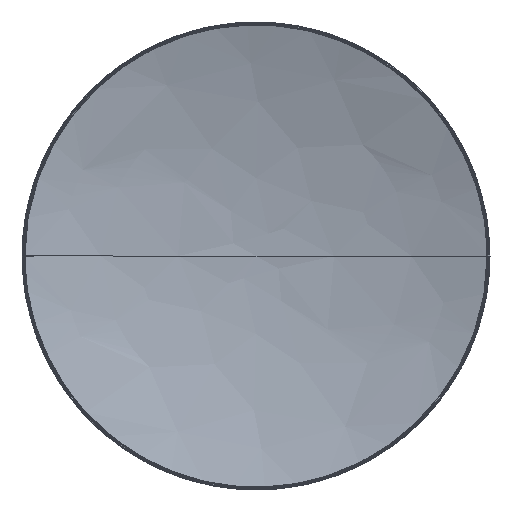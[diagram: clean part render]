
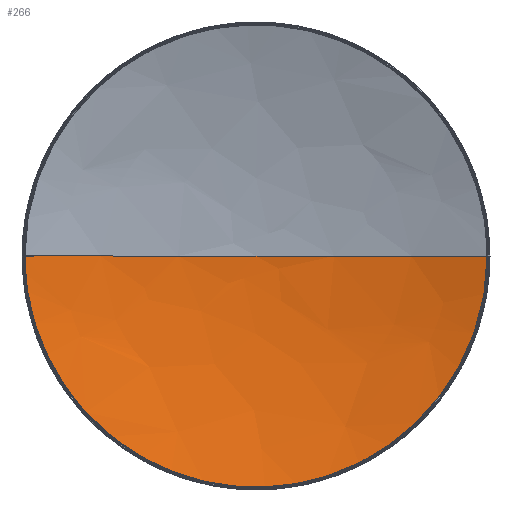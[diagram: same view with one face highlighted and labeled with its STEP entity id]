
A CAD part, front view. The second image highlights one B-rep face of the part: STEP entity #266.
In plain terms, the highlighted free-form (B-spline) face has degree [2, 2] with [5, 9] control points.
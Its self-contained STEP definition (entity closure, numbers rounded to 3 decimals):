
#266=ADVANCED_FACE('',(#555),#3764,.T.);
#555=FACE_OUTER_BOUND('',#842,.T.);
#842=EDGE_LOOP('',(#1920,#1921,#1922));
#1920=ORIENTED_EDGE('',*,*,#2580,.F.);
#1921=ORIENTED_EDGE('',*,*,#2581,.F.);
#1922=ORIENTED_EDGE('',*,*,#2582,.F.);
#2580=EDGE_CURVE('',#3580,#3579,#3189,.T.);
#2581=EDGE_CURVE('',#3581,#3580,#3190,.T.);
#2582=EDGE_CURVE('',#3579,#3581,#3191,.T.);
#3189=(
BOUNDED_CURVE()
B_SPLINE_CURVE(2,(#10249,#10250,#10251,#10252,#10253),.UNSPECIFIED.,.F.,
 .F.)
B_SPLINE_CURVE_WITH_KNOTS((3,2,3),(-1082.279,-541.139,
0.),.UNSPECIFIED.)
CURVE()
GEOMETRIC_REPRESENTATION_ITEM()
RATIONAL_B_SPLINE_CURVE((1.,0.707,1.,0.707,1.))
REPRESENTATION_ITEM('')
);
#3190=(
BOUNDED_CURVE()
B_SPLINE_CURVE(2,(#10254,#10255,#10256),.UNSPECIFIED.,.F.,.F.)
B_SPLINE_CURVE_WITH_KNOTS((3,3),(0.,349.809),.UNSPECIFIED.)
CURVE()
GEOMETRIC_REPRESENTATION_ITEM()
RATIONAL_B_SPLINE_CURVE((1.,0.989,1.))
REPRESENTATION_ITEM('')
);
#3191=(
BOUNDED_CURVE()
B_SPLINE_CURVE(2,(#10257,#10258,#10259),.UNSPECIFIED.,.F.,.F.)
B_SPLINE_CURVE_WITH_KNOTS((3,3),(0.,349.809),.UNSPECIFIED.)
CURVE()
GEOMETRIC_REPRESENTATION_ITEM()
RATIONAL_B_SPLINE_CURVE((1.,0.989,1.))
REPRESENTATION_ITEM('')
);
#3579=VERTEX_POINT('',#10221);
#3580=VERTEX_POINT('',#10222);
#3581=VERTEX_POINT('',#10223);
#3764=(
BOUNDED_SURFACE()
B_SPLINE_SURFACE(2,2,((#10128,#10129,#10130,#10131,#10132,#10133,#10134,
#10135,#10136),(#10137,#10138,#10139,#10140,#10141,#10142,#10143,#10144,
#10145),(#10146,#10147,#10148,#10149,#10150,#10151,#10152,#10153,#10154),
(#10155,#10156,#10157,#10158,#10159,#10160,#10161,#10162,#10163),(#10164,
#10165,#10166,#10167,#10168,#10169,#10170,#10171,#10172)),.UNSPECIFIED.,
 .F.,.F.,.F.)
B_SPLINE_SURFACE_WITH_KNOTS((3,2,3),(3,2,2,2,3),(0.,1816.686,3633.372),
(0.,1816.686,3633.372,5450.057,7266.743),
 .UNSPECIFIED.)
GEOMETRIC_REPRESENTATION_ITEM()
RATIONAL_B_SPLINE_SURFACE(((1.,0.707,1.,0.707,1.,
0.707,1.,0.707,1.),(0.707,0.5,0.707,
0.5,0.707,0.5,0.707,0.5,0.707),(1.,
0.707,1.,0.707,1.,0.707,1.,0.707,
1.),(0.707,0.5,0.707,0.5,0.707,0.5,
0.707,0.5,0.707),(1.,0.707,1.,0.707,
1.,0.707,1.,0.707,1.)))
REPRESENTATION_ITEM('')
SURFACE()
);
#10128=CARTESIAN_POINT('',(0.,-693.5,0.));
#10129=CARTESIAN_POINT('',(0.,-693.5,0.));
#10130=CARTESIAN_POINT('',(0.,-693.5,0.));
#10131=CARTESIAN_POINT('',(0.,-693.5,0.));
#10132=CARTESIAN_POINT('',(0.,-693.5,0.));
#10133=CARTESIAN_POINT('',(0.,-693.5,0.));
#10134=CARTESIAN_POINT('',(0.,-693.5,0.));
#10135=CARTESIAN_POINT('',(0.,-693.5,0.));
#10136=CARTESIAN_POINT('',(0.,-693.5,0.));
#10137=CARTESIAN_POINT('',(1156.538,-693.5,0.));
#10138=CARTESIAN_POINT('',(1156.538,-693.5,1156.538));
#10139=CARTESIAN_POINT('',(0.,-693.5,1156.538));
#10140=CARTESIAN_POINT('',(-1156.538,-693.5,1156.538));
#10141=CARTESIAN_POINT('',(-1156.538,-693.5,0.));
#10142=CARTESIAN_POINT('',(-1156.538,-693.5,-1156.538));
#10143=CARTESIAN_POINT('',(0.,-693.5,-1156.538));
#10144=CARTESIAN_POINT('',(1156.538,-693.5,-1156.538));
#10145=CARTESIAN_POINT('',(1156.538,-693.5,0.));
#10146=CARTESIAN_POINT('',(1156.538,-1850.038,0.));
#10147=CARTESIAN_POINT('',(1156.538,-1850.038,1156.538));
#10148=CARTESIAN_POINT('',(0.,-1850.038,1156.538));
#10149=CARTESIAN_POINT('',(-1156.538,-1850.038,1156.538));
#10150=CARTESIAN_POINT('',(-1156.538,-1850.038,0.));
#10151=CARTESIAN_POINT('',(-1156.538,-1850.038,-1156.538));
#10152=CARTESIAN_POINT('',(0.,-1850.038,-1156.538));
#10153=CARTESIAN_POINT('',(1156.538,-1850.038,-1156.538));
#10154=CARTESIAN_POINT('',(1156.538,-1850.038,0.));
#10155=CARTESIAN_POINT('',(1156.538,-3006.576,0.));
#10156=CARTESIAN_POINT('',(1156.538,-3006.576,1156.538));
#10157=CARTESIAN_POINT('',(0.,-3006.576,1156.538));
#10158=CARTESIAN_POINT('',(-1156.538,-3006.576,1156.538));
#10159=CARTESIAN_POINT('',(-1156.538,-3006.576,0.));
#10160=CARTESIAN_POINT('',(-1156.538,-3006.576,-1156.538));
#10161=CARTESIAN_POINT('',(0.,-3006.576,-1156.538));
#10162=CARTESIAN_POINT('',(1156.538,-3006.576,-1156.538));
#10163=CARTESIAN_POINT('',(1156.538,-3006.576,0.));
#10164=CARTESIAN_POINT('',(0.,-3006.576,0.));
#10165=CARTESIAN_POINT('',(0.,-3006.576,0.));
#10166=CARTESIAN_POINT('',(0.,-3006.576,0.));
#10167=CARTESIAN_POINT('',(0.,-3006.576,0.));
#10168=CARTESIAN_POINT('',(0.,-3006.576,0.));
#10169=CARTESIAN_POINT('',(0.,-3006.576,0.));
#10170=CARTESIAN_POINT('',(0.,-3006.576,0.));
#10171=CARTESIAN_POINT('',(0.,-3006.576,0.));
#10172=CARTESIAN_POINT('',(0.,-3006.576,0.));
#10221=CARTESIAN_POINT('',(-344.5,-746.,0.));
#10222=CARTESIAN_POINT('',(344.5,-746.,0.));
#10223=CARTESIAN_POINT('',(0.,-693.5,0.));
#10249=CARTESIAN_POINT('',(344.5,-746.,0.));
#10250=CARTESIAN_POINT('',(344.5,-746.,-344.5));
#10251=CARTESIAN_POINT('',(0.,-746.,-344.5));
#10252=CARTESIAN_POINT('',(-344.5,-746.,-344.5));
#10253=CARTESIAN_POINT('',(-344.5,-746.,0.));
#10254=CARTESIAN_POINT('',(0.,-693.5,0.));
#10255=CARTESIAN_POINT('',(176.25,-693.5,0.));
#10256=CARTESIAN_POINT('',(344.5,-746.,0.));
#10257=CARTESIAN_POINT('',(-344.5,-746.,0.));
#10258=CARTESIAN_POINT('',(-176.25,-693.5,0.));
#10259=CARTESIAN_POINT('',(0.,-693.5,0.));
